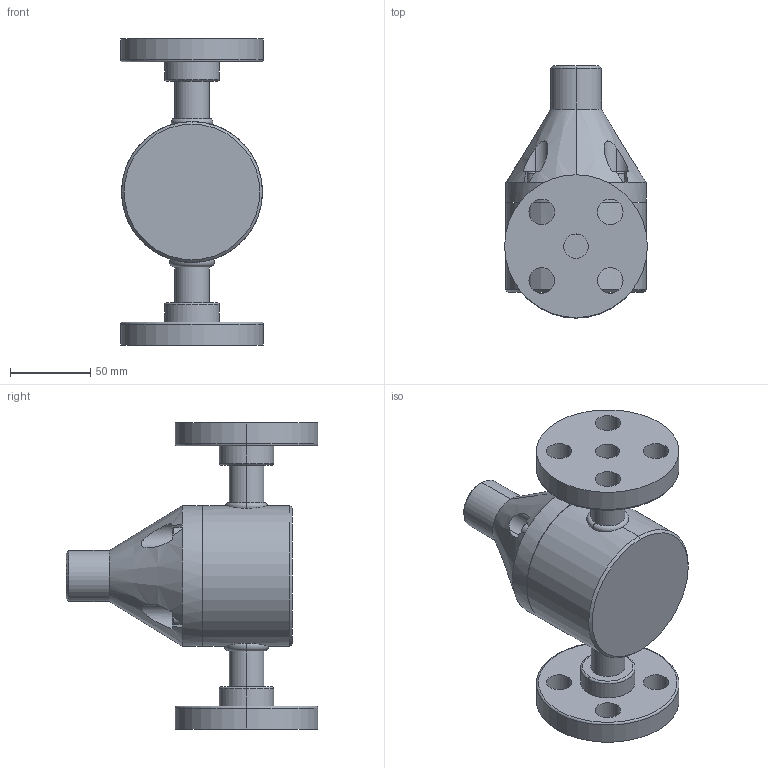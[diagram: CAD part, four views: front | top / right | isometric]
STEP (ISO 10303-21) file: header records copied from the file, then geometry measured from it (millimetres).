
FILE_DESCRIPTION (( 'STEP AP203' ), '1' );
FILE_NAME ('GBP0500-FLNG.STEP', '2016-02-12T10:27:35', ( '' ), ( '' ), 'SwSTEP 2.0', 'SolidWorks 2014', '' );
FILE_SCHEMA (( 'CONFIG_CONTROL_DESIGN' ));
Length unit declared in the file: inch
Products named in the file (2): GBP0500-FLNG
Bounding box: 88.9 x 156.84 x 190.5 mm (x, y, z)
Volume: 750180.4 mm3; surface area: 88924.4 mm2
Topology: 1 solids, 1 shells, 166 faces, 396 edges, 252 vertices
Faces by surface type: plane 78, cylinder 56, cone 18, torus 14
Entity records: 5419 total; most frequent: CARTESIAN_POINT 1270, DIRECTION 878, ORIENTED_EDGE 792, EDGE_CURVE 396, AXIS2_PLACEMENT_3D 336, VERTEX_POINT 252, VECTOR 206, LINE 206
